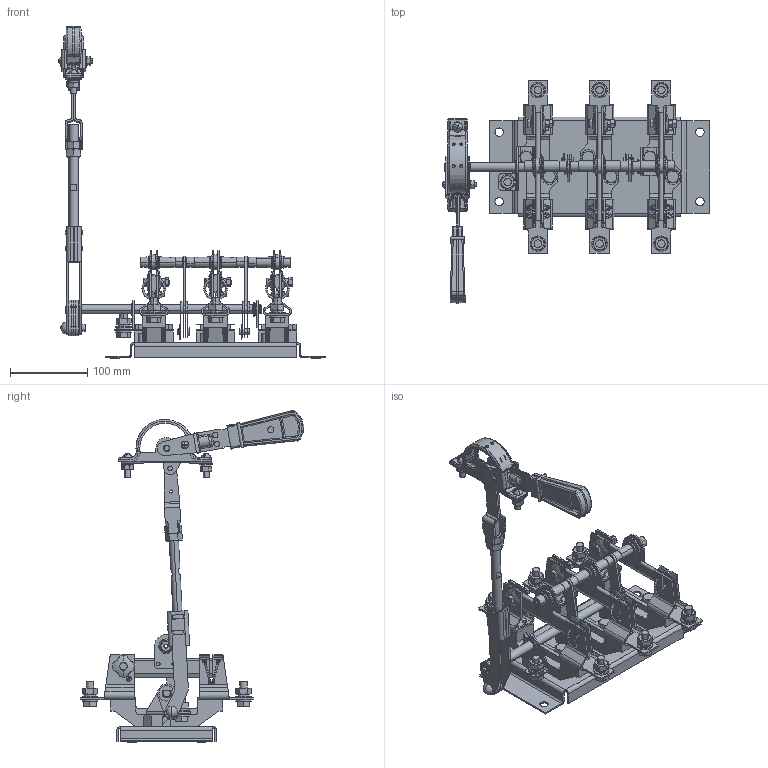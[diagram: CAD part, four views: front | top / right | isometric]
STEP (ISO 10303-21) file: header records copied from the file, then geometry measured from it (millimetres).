
FILE_DESCRIPTION (( 'STEP AP214' ), '1' );
FILE_NAME ('Ðàçúåäèíèòåëü ÐÅ19-37-31141-400À-ÓÕË3-ÊÝÀÇ.STEP', '2023-08-11T07:57:10', ( '' ), ( '' ), 'SwSTEP 2.0', 'SolidWorks 2018', '' );
FILE_SCHEMA (( 'AUTOMOTIVE_DESIGN' ));
Length unit declared in the file: millimetre
Products named in the file (1): Ðàçúåäèíèòåëü ÐÅ19-37-31141-400À-ÓÕË3-ÊÝÀÇ
Bounding box: 346.02 x 289.62 x 430.07 mm (x, y, z)
Surface area: 438687 mm2 (no closed solid volume)
Topology: 0 solids, 265 shells, 2416 faces, 7212 edges, 4977 vertices
Faces by surface type: plane 1225, cylinder 698, torus 194, cone 159, bspline 91, sphere 49
Entity records: 114135 total; most frequent: CARTESIAN_POINT 23864, DIRECTION 13560, ORIENTED_EDGE 11903, EDGE_CURVE 7193, AXIS2_PLACEMENT_3D 5136, VERTEX_POINT 4975, VECTOR 3288, LINE 3288
